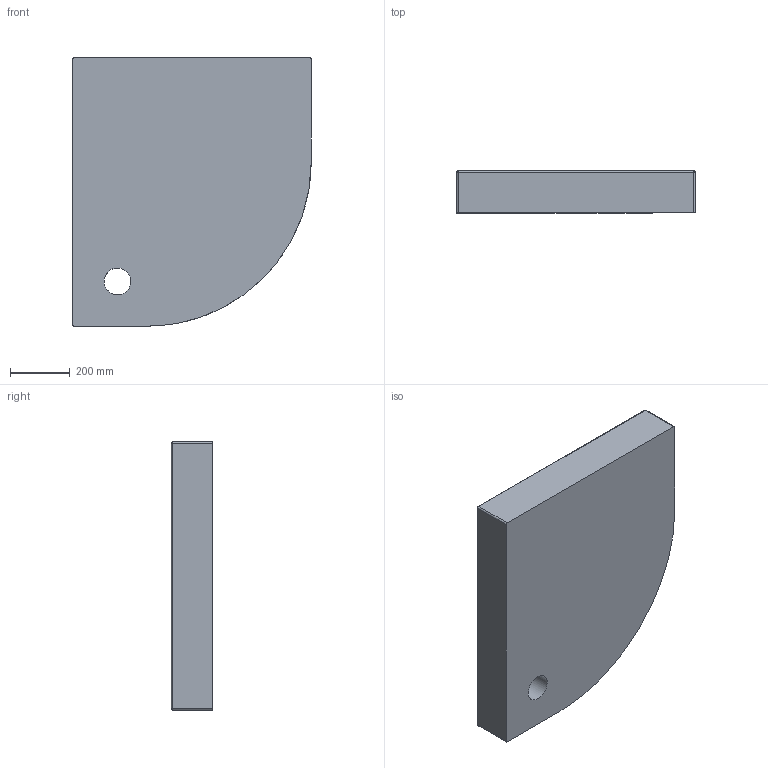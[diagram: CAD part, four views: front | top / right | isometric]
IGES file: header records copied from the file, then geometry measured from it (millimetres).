
Global section: file name: 183ee9f1-19e8-47ef-8d14-3d3b1d57cd78; native system: unknown; preprocessor: unknown; author: unknown; organization: unknown; date: 20200103.090130; units: millimetre
Bounding box: 800 x 140 x 900 mm (x, y, z)
Volume: 78721502 mm3; surface area: 1819405.2 mm2
Topology: 1 solids, 1 shells, 47 faces, 103 edges, 59 vertices
Faces by surface type: bspline 47
